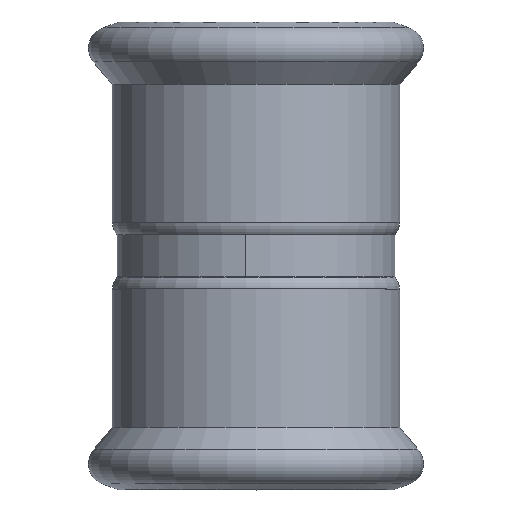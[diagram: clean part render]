
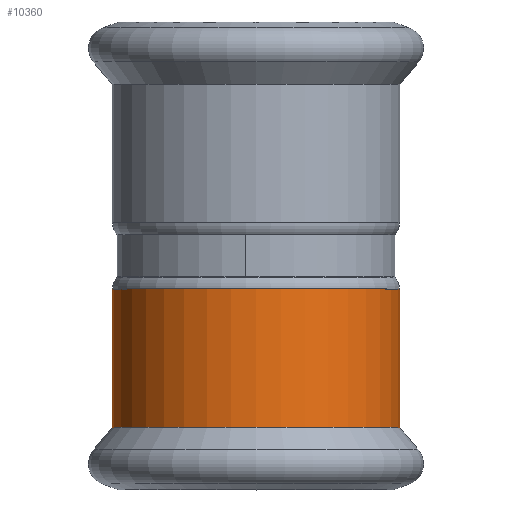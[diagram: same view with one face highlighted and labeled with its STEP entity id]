
A CAD part, top view. The second image highlights one B-rep face of the part: STEP entity #10360.
In plain terms, the highlighted cylindrical face has radius 19.1 mm (diameter 38.2 mm), a partial arc.
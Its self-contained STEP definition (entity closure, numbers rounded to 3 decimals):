
#8040=CARTESIAN_POINT('',(32.228,23.145,0.));
#8050=DIRECTION('',(0.,-1.,0.));
#8060=DIRECTION('',(-1.,0.,0.));
#8070=AXIS2_PLACEMENT_3D('',#8040,#8050,#8060);
#8080=CIRCLE('',#8070,19.1);
#8090=CARTESIAN_POINT('',(51.328,23.145,
0.));
#8100=VERTEX_POINT('644870-1530253459-180373220723-0 1390770',#8090);
#8110=CARTESIAN_POINT('',(13.128,23.145,0.));
#8120=VERTEX_POINT('',#8110);
#8150=EDGE_CURVE('644870-1530253459-180373220723-0 1390768',#8120,#8100,
#8080,.T.);
#8250=CARTESIAN_POINT('',(51.328,32.345,
0.));
#8260=DIRECTION('',(0.,-1.,0.));
#8270=VECTOR('',#8260,1.);
#8280=LINE('',#8250,#8270);
#8290=CARTESIAN_POINT('',(51.328,41.545,
0.));
#8300=VERTEX_POINT('644870-1530253459-180373220723-0 1390783',#8290);
#8310=EDGE_CURVE('',#8300,#8100,#8280,.T.);
#8340=CARTESIAN_POINT('',(13.128,32.345,0.));
#8350=DIRECTION('',(0.,-1.,0.));
#8360=VECTOR('',#8350,1.);
#8370=LINE('',#8340,#8360);
#8380=CARTESIAN_POINT('',(13.128,41.545,0.));
#8390=VERTEX_POINT('',#8380);
#8400=EDGE_CURVE('',#8390,#8120,#8370,.T.);
#8420=CARTESIAN_POINT('',(32.228,41.545,0.));
#8430=DIRECTION('',(0.,1.,0.));
#8440=DIRECTION('',(1.,0.,0.));
#8450=AXIS2_PLACEMENT_3D('',#8420,#8430,#8440);
#8460=CIRCLE('',#8450,19.1);
#10190=EDGE_CURVE('644870-1530253459-180373220723-0 1390781',#8300,#8390
,#8460,.T.);
#10250=CARTESIAN_POINT('',(32.228,32.345,0.));
#10260=DIRECTION('',(0.,-1.,0.));
#10270=DIRECTION('',(-1.,0.,0.));
#10280=AXIS2_PLACEMENT_3D('',#10250,#10260,#10270);
#10290=CYLINDRICAL_SURFACE('',#10280,19.1);
#10300=ORIENTED_EDGE('',*,*,#8310,.T.);
#10310=ORIENTED_EDGE('',*,*,#10190,.F.);
#10320=ORIENTED_EDGE('',*,*,#8400,.F.);
#10330=ORIENTED_EDGE('',*,*,#8150,.F.);
#10340=EDGE_LOOP('',(#10330,#10320,#10310,#10300));
#10350=FACE_OUTER_BOUND('',#10340,.T.);
#10360=ADVANCED_FACE('644870-1530253459-180373220723-0 1390777',(#10350)
,#10290,.T.);
